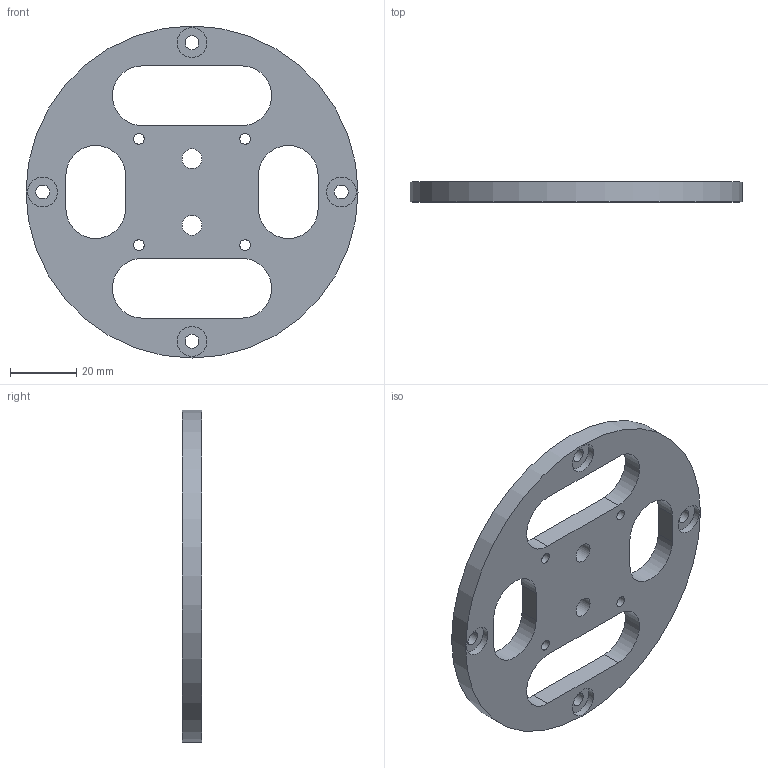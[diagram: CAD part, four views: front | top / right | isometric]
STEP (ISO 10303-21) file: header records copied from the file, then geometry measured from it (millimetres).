
FILE_DESCRIPTION(/* description */ (''),/* implementation_level */ '2;1');
FILE_NAME(/* name */ '',/* time_stamp */ '2026-05-15T16:13:43+08:00',/* author */ ('32769'),/* organization */ (''),/* preprocessor_version */ 'ST-DEVELOPER v20',/* originating_system */ 'Autodesk Inventor 2025',/* authorisation */ '');
FILE_SCHEMA (('AUTOMOTIVE_DESIGN { 1 0 10303 214 3 1 1 }'));
Length unit declared in the file: millimetre
Products named in the file (1): 新 bottom body圆盘
Bounding box: 100 x 6 x 100 mm (x, y, z)
Volume: 31108.6 mm3; surface area: 15612.3 mm2
Topology: 1 solids, 1 shells, 37 faces, 97 edges, 72 vertices
Faces by surface type: cylinder 23, plane 14
Full cylindrical faces by diameter (mm): 3.242 x4, 4.2 x4, 6 x2, 9 x4, 100 x1
Entity records: 1268 total; most frequent: DIRECTION 215, CARTESIAN_POINT 203, ORIENTED_EDGE 186, EDGE_CURVE 93, AXIS2_PLACEMENT_3D 84, EDGE_LOOP 69, VERTEX_POINT 62, LINE 47
